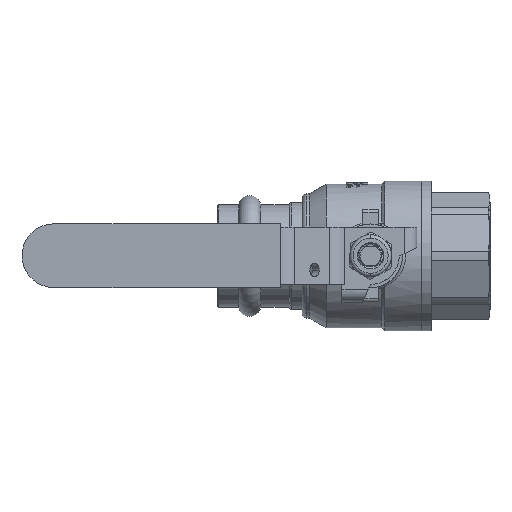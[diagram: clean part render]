
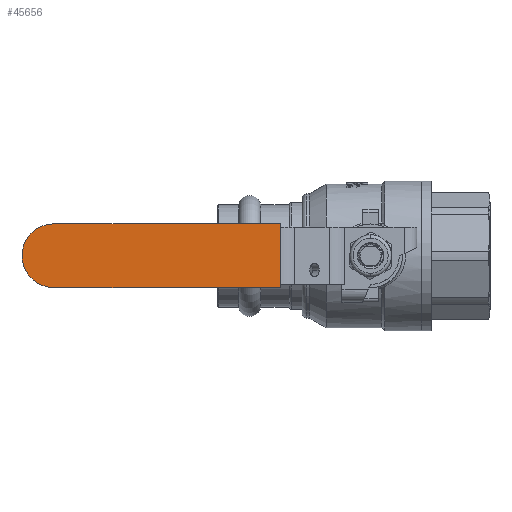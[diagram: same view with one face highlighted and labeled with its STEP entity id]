
A CAD part, top view. The second image highlights one B-rep face of the part: STEP entity #45656.
In plain terms, the highlighted planar face has unit normal (0, 0, 1).
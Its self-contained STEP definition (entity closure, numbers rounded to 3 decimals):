
#43093 = PLANE('',#43094);
#43094 = AXIS2_PLACEMENT_3D('',#43095,#43096,#43097);
#43095 = CARTESIAN_POINT('',(-28.314,10.,58.25));
#43096 = DIRECTION('',(-1.,0.,0.));
#43097 = DIRECTION('',(0.,-1.,0.));
#45426 = VERTEX_POINT('',#45427);
#45427 = CARTESIAN_POINT('',(-28.314,-10.,58.25));
#45443 = PLANE('',#45444);
#45444 = AXIS2_PLACEMENT_3D('',#45445,#45446,#45447);
#45445 = CARTESIAN_POINT('',(0.,-10.,39.25));
#45446 = DIRECTION('',(0.,1.,0.));
#45447 = DIRECTION('',(-1.,0.,0.));
#45484 = VERTEX_POINT('',#45485);
#45485 = CARTESIAN_POINT('',(-28.314,10.,58.25));
#45499 = PLANE('',#45500);
#45500 = AXIS2_PLACEMENT_3D('',#45501,#45502,#45503);
#45501 = CARTESIAN_POINT('',(0.,10.,39.25));
#45502 = DIRECTION('',(0.,1.,0.));
#45503 = DIRECTION('',(-1.,0.,0.));
#45511 = EDGE_CURVE('',#45484,#45426,#45512,.T.);
#45512 = SURFACE_CURVE('',#45513,(#45517,#45524),.PCURVE_S1.);
#45513 = LINE('',#45514,#45515);
#45514 = CARTESIAN_POINT('',(-28.314,10.,58.25));
#45515 = VECTOR('',#45516,1.);
#45516 = DIRECTION('',(0.,-1.,0.));
#45517 = PCURVE('',#43093,#45518);
#45518 = DEFINITIONAL_REPRESENTATION('',(#45519),#45523);
#45519 = LINE('',#45520,#45521);
#45520 = CARTESIAN_POINT('',(-0.,0.));
#45521 = VECTOR('',#45522,1.);
#45522 = DIRECTION('',(1.,0.));
#45523 = ( GEOMETRIC_REPRESENTATION_CONTEXT(2) 
PARAMETRIC_REPRESENTATION_CONTEXT() REPRESENTATION_CONTEXT('2D SPACE',''
  ) );
#45524 = PCURVE('',#45525,#45530);
#45525 = PLANE('',#45526);
#45526 = AXIS2_PLACEMENT_3D('',#45527,#45528,#45529);
#45527 = CARTESIAN_POINT('',(-28.314,10.,58.25));
#45528 = DIRECTION('',(0.,0.,-1.));
#45529 = DIRECTION('',(0.,-1.,0.));
#45530 = DEFINITIONAL_REPRESENTATION('',(#45531),#45535);
#45531 = LINE('',#45532,#45533);
#45532 = CARTESIAN_POINT('',(-0.,0.));
#45533 = VECTOR('',#45534,1.);
#45534 = DIRECTION('',(1.,0.));
#45535 = ( GEOMETRIC_REPRESENTATION_CONTEXT(2) 
PARAMETRIC_REPRESENTATION_CONTEXT() REPRESENTATION_CONTEXT('2D SPACE',''
  ) );
#45590 = CYLINDRICAL_SURFACE('',#45591,10.);
#45591 = AXIS2_PLACEMENT_3D('',#45592,#45593,#45594);
#45592 = CARTESIAN_POINT('',(-99.5,0.,58.25));
#45593 = DIRECTION('',(0.,0.,1.));
#45594 = DIRECTION('',(0.,1.,0.));
#45623 = CYLINDRICAL_SURFACE('',#45624,10.);
#45624 = AXIS2_PLACEMENT_3D('',#45625,#45626,#45627);
#45625 = CARTESIAN_POINT('',(-99.5,0.,39.25));
#45626 = DIRECTION('',(0.,0.,-1.));
#45627 = DIRECTION('',(0.,-1.,0.));
#45656 = ADVANCED_FACE('',(#45657),#45525,.F.);
#45657 = FACE_BOUND('',#45658,.T.);
#45658 = EDGE_LOOP('',(#45659,#45689,#45717,#45738,#45739));
#45659 = ORIENTED_EDGE('',*,*,#45660,.T.);
#45660 = EDGE_CURVE('',#45661,#45663,#45665,.T.);
#45661 = VERTEX_POINT('',#45662);
#45662 = CARTESIAN_POINT('',(-99.5,10.,58.25));
#45663 = VERTEX_POINT('',#45664);
#45664 = CARTESIAN_POINT('',(-109.5,0.,58.25)
  );
#45665 = SURFACE_CURVE('',#45666,(#45671,#45682),.PCURVE_S1.);
#45666 = CIRCLE('',#45667,10.);
#45667 = AXIS2_PLACEMENT_3D('',#45668,#45669,#45670);
#45668 = CARTESIAN_POINT('',(-99.5,0.,58.25));
#45669 = DIRECTION('',(0.,0.,1.));
#45670 = DIRECTION('',(0.,-1.,0.));
#45671 = PCURVE('',#45525,#45672);
#45672 = DEFINITIONAL_REPRESENTATION('',(#45673),#45681);
#45673 = ( BOUNDED_CURVE() B_SPLINE_CURVE(2,(#45674,#45675,#45676,#45677
    ,#45678,#45679,#45680),.UNSPECIFIED.,.T.,.F.) 
B_SPLINE_CURVE_WITH_KNOTS((1,2,2,2,2,1),(-2.094,0.,
    2.094,4.189,6.283,8.378),
.UNSPECIFIED.) CURVE() GEOMETRIC_REPRESENTATION_ITEM() 
RATIONAL_B_SPLINE_CURVE((1.,0.5,1.,0.5,1.,0.5,1.)) REPRESENTATION_ITEM(
  '') );
#45674 = CARTESIAN_POINT('',(20.,71.186));
#45675 = CARTESIAN_POINT('',(20.,53.866));
#45676 = CARTESIAN_POINT('',(5.,62.526));
#45677 = CARTESIAN_POINT('',(-10.,71.186));
#45678 = CARTESIAN_POINT('',(5.,79.847));
#45679 = CARTESIAN_POINT('',(20.,88.507));
#45680 = CARTESIAN_POINT('',(20.,71.186));
#45681 = ( GEOMETRIC_REPRESENTATION_CONTEXT(2) 
PARAMETRIC_REPRESENTATION_CONTEXT() REPRESENTATION_CONTEXT('2D SPACE',''
  ) );
#45682 = PCURVE('',#45623,#45683);
#45683 = DEFINITIONAL_REPRESENTATION('',(#45684),#45688);
#45684 = LINE('',#45685,#45686);
#45685 = CARTESIAN_POINT('',(6.283,-19.));
#45686 = VECTOR('',#45687,1.);
#45687 = DIRECTION('',(-1.,0.));
#45688 = ( GEOMETRIC_REPRESENTATION_CONTEXT(2) 
PARAMETRIC_REPRESENTATION_CONTEXT() REPRESENTATION_CONTEXT('2D SPACE',''
  ) );
#45689 = ORIENTED_EDGE('',*,*,#45690,.T.);
#45690 = EDGE_CURVE('',#45663,#45691,#45693,.T.);
#45691 = VERTEX_POINT('',#45692);
#45692 = CARTESIAN_POINT('',(-99.5,-10.,58.25));
#45693 = SURFACE_CURVE('',#45694,(#45699,#45710),.PCURVE_S1.);
#45694 = CIRCLE('',#45695,10.);
#45695 = AXIS2_PLACEMENT_3D('',#45696,#45697,#45698);
#45696 = CARTESIAN_POINT('',(-99.5,0.,58.25));
#45697 = DIRECTION('',(0.,0.,1.));
#45698 = DIRECTION('',(0.,-1.,0.));
#45699 = PCURVE('',#45525,#45700);
#45700 = DEFINITIONAL_REPRESENTATION('',(#45701),#45709);
#45701 = ( BOUNDED_CURVE() B_SPLINE_CURVE(2,(#45702,#45703,#45704,#45705
    ,#45706,#45707,#45708),.UNSPECIFIED.,.T.,.F.) 
B_SPLINE_CURVE_WITH_KNOTS((1,2,2,2,2,1),(-2.094,0.,
    2.094,4.189,6.283,8.378),
.UNSPECIFIED.) CURVE() GEOMETRIC_REPRESENTATION_ITEM() 
RATIONAL_B_SPLINE_CURVE((1.,0.5,1.,0.5,1.,0.5,1.)) REPRESENTATION_ITEM(
  '') );
#45702 = CARTESIAN_POINT('',(20.,71.186));
#45703 = CARTESIAN_POINT('',(20.,53.866));
#45704 = CARTESIAN_POINT('',(5.,62.526));
#45705 = CARTESIAN_POINT('',(-10.,71.186));
#45706 = CARTESIAN_POINT('',(5.,79.847));
#45707 = CARTESIAN_POINT('',(20.,88.507));
#45708 = CARTESIAN_POINT('',(20.,71.186));
#45709 = ( GEOMETRIC_REPRESENTATION_CONTEXT(2) 
PARAMETRIC_REPRESENTATION_CONTEXT() REPRESENTATION_CONTEXT('2D SPACE',''
  ) );
#45710 = PCURVE('',#45590,#45711);
#45711 = DEFINITIONAL_REPRESENTATION('',(#45712),#45716);
#45712 = LINE('',#45713,#45714);
#45713 = CARTESIAN_POINT('',(-3.142,0.));
#45714 = VECTOR('',#45715,1.);
#45715 = DIRECTION('',(1.,0.));
#45716 = ( GEOMETRIC_REPRESENTATION_CONTEXT(2) 
PARAMETRIC_REPRESENTATION_CONTEXT() REPRESENTATION_CONTEXT('2D SPACE',''
  ) );
#45717 = ORIENTED_EDGE('',*,*,#45718,.T.);
#45718 = EDGE_CURVE('',#45691,#45426,#45719,.T.);
#45719 = SURFACE_CURVE('',#45720,(#45724,#45731),.PCURVE_S1.);
#45720 = LINE('',#45721,#45722);
#45721 = CARTESIAN_POINT('',(-28.314,-10.,58.25));
#45722 = VECTOR('',#45723,1.);
#45723 = DIRECTION('',(1.,0.,0.));
#45724 = PCURVE('',#45525,#45725);
#45725 = DEFINITIONAL_REPRESENTATION('',(#45726),#45730);
#45726 = LINE('',#45727,#45728);
#45727 = CARTESIAN_POINT('',(20.,0.));
#45728 = VECTOR('',#45729,1.);
#45729 = DIRECTION('',(0.,-1.));
#45730 = ( GEOMETRIC_REPRESENTATION_CONTEXT(2) 
PARAMETRIC_REPRESENTATION_CONTEXT() REPRESENTATION_CONTEXT('2D SPACE',''
  ) );
#45731 = PCURVE('',#45443,#45732);
#45732 = DEFINITIONAL_REPRESENTATION('',(#45733),#45737);
#45733 = LINE('',#45734,#45735);
#45734 = CARTESIAN_POINT('',(28.314,19.));
#45735 = VECTOR('',#45736,1.);
#45736 = DIRECTION('',(-1.,0.));
#45737 = ( GEOMETRIC_REPRESENTATION_CONTEXT(2) 
PARAMETRIC_REPRESENTATION_CONTEXT() REPRESENTATION_CONTEXT('2D SPACE',''
  ) );
#45738 = ORIENTED_EDGE('',*,*,#45511,.F.);
#45739 = ORIENTED_EDGE('',*,*,#45740,.F.);
#45740 = EDGE_CURVE('',#45661,#45484,#45741,.T.);
#45741 = SURFACE_CURVE('',#45742,(#45746,#45753),.PCURVE_S1.);
#45742 = LINE('',#45743,#45744);
#45743 = CARTESIAN_POINT('',(-28.314,10.,58.25));
#45744 = VECTOR('',#45745,1.);
#45745 = DIRECTION('',(1.,0.,0.));
#45746 = PCURVE('',#45525,#45747);
#45747 = DEFINITIONAL_REPRESENTATION('',(#45748),#45752);
#45748 = LINE('',#45749,#45750);
#45749 = CARTESIAN_POINT('',(-0.,0.));
#45750 = VECTOR('',#45751,1.);
#45751 = DIRECTION('',(0.,-1.));
#45752 = ( GEOMETRIC_REPRESENTATION_CONTEXT(2) 
PARAMETRIC_REPRESENTATION_CONTEXT() REPRESENTATION_CONTEXT('2D SPACE',''
  ) );
#45753 = PCURVE('',#45499,#45754);
#45754 = DEFINITIONAL_REPRESENTATION('',(#45755),#45759);
#45755 = LINE('',#45756,#45757);
#45756 = CARTESIAN_POINT('',(28.314,19.));
#45757 = VECTOR('',#45758,1.);
#45758 = DIRECTION('',(-1.,0.));
#45759 = ( GEOMETRIC_REPRESENTATION_CONTEXT(2) 
PARAMETRIC_REPRESENTATION_CONTEXT() REPRESENTATION_CONTEXT('2D SPACE',''
  ) );
